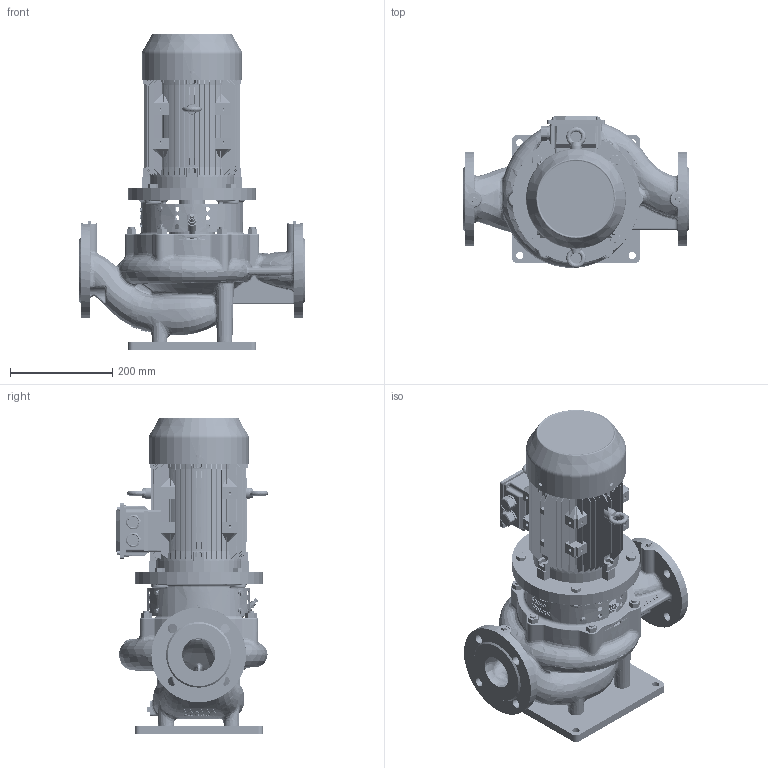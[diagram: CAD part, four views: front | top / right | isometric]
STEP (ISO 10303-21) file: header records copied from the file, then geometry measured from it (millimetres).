
FILE_DESCRIPTION((''),'2;1');
FILE_NAME('494513_ASM','2026-08-12T09:53:07',('brhe'),(''),'CREO PARAMETRIC BY PTC INC, 2023424','CREO PARAMETRIC BY PTC INC, 2023424','');
FILE_SCHEMA(('CONFIG_CONTROL_DESIGN'));
Products named in the file (37): 528902; 528470; 528180; 760085; 700225; 704063; 2039311; E41376; 1833898; 565622; 3100-040AA116; 3116-000AA116; E42637_1; E42637_2; E42637_AF2_ASM; 692823_AF0_ASM; 114811; 700365; 658300_ASM; 115646; 115621; 692812_ASM; 565660; 708791; 115635; 115648_AF0; 720488; 708002; 700306; 703239; 692816_ASM; 712095_AF2; 709485; 690815_AF0_ASM; 704390; 852200; 494513_ASM
Assembly tree (62 placements, depth 4):
  494513_ASM
    692823_AF0_ASM
      528902
      528470  x2
      528180
      760085
      700225  x6
      704063  x6
      2039311
      E41376
      1833898
      565622
      3100-040AA116
      3116-000AA116
      E42637_AF2_ASM
        E42637_1
        E42637_2
    658300_ASM
      114811
      700365  x4
    692816_ASM
      692812_ASM
        115646
        115621
      565660
      708791  x4
      115635
      115648_AF0
      720488  x4
      708002  x3
      700306  x3
      703239  x2
    690815_AF0_ASM
      712095_AF2
      709485
    704390  x2
    852200
Bounding box: 440 x 296.6 x 617.99 mm (x, y, z)
Volume: 11992464.2 mm3; surface area: 2271246 mm2
Topology: 74 solids, 114 shells, 5771 faces, 15181 edges, 9737 vertices
Faces by surface type: plane 2402, cylinder 1221, bspline 735, extrusion 594, cone 564, torus 230, sphere 21, revolution 4
Entity records: 312162 total; most frequent: CARTESIAN_POINT 187025, ORIENTED_EDGE 28238, DIRECTION 21960, EDGE_CURVE 14203, VERTEX_POINT 9184, AXIS2_PLACEMENT_3D 7809, VECTOR 6338, EDGE_LOOP 5805
